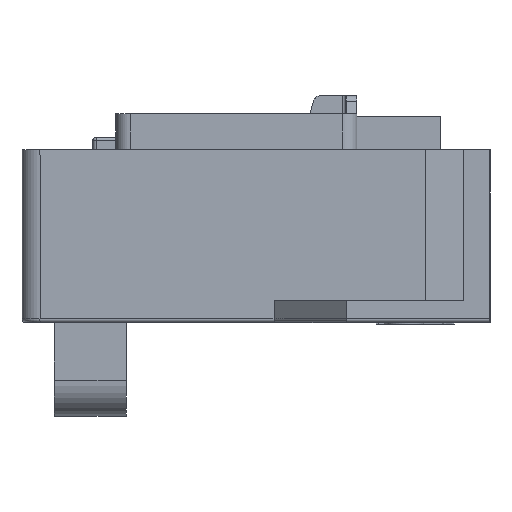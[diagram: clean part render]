
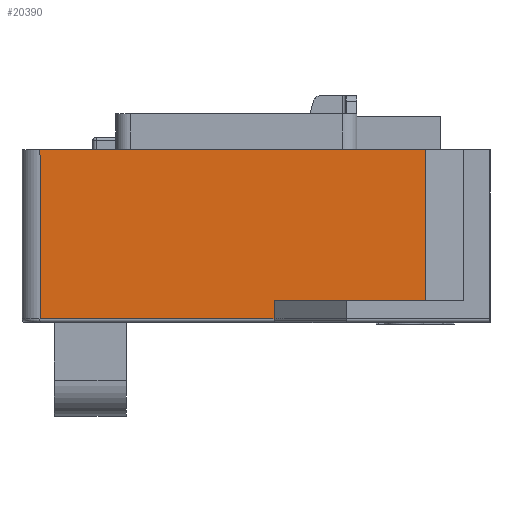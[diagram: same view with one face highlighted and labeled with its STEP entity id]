
A CAD part, left-side view. The second image highlights one B-rep face of the part: STEP entity #20390.
In plain terms, the highlighted planar face has unit normal (-1, 0, 0).
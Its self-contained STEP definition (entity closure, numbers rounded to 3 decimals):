
#11580=CARTESIAN_POINT('',(-36.777,-0.277,
4.084));
#11590=VERTEX_POINT('',#11580);
#11620=CARTESIAN_POINT('',(-36.777,0.,4.084));
#11630=DIRECTION('',(0.,-1.,0.));
#11640=VECTOR('',#11630,1.);
#11650=LINE('',#11620,#11640);
#11660=CARTESIAN_POINT('',(-36.777,-21.277,
4.084));
#11670=VERTEX_POINT('',#11660);
#11680=EDGE_CURVE('',#11590,#11670,#11650,.T.);
#12520=CARTESIAN_POINT('',(-36.777,-21.277,
25.084));
#12530=VERTEX_POINT('',#12520);
#12630=CARTESIAN_POINT('',(-36.777,-21.277,0.));
#12640=DIRECTION('',(0.,0.,1.));
#12650=VECTOR('',#12640,1.);
#12660=LINE('',#12630,#12650);
#12670=EDGE_CURVE('',#11670,#12530,#12660,.T.);
#19790=CARTESIAN_POINT('',(-36.777,32.223,
25.084));
#19800=VERTEX_POINT('',#19790);
#19830=CARTESIAN_POINT('',(-36.777,32.223,
25.174));
#19840=DIRECTION('',(0.,0.,-1.));
#19850=VECTOR('',#19840,1.);
#19860=LINE('',#19830,#19850);
#19870=CARTESIAN_POINT('',(-36.777,32.223,
1.584));
#19880=VERTEX_POINT('',#19870);
#19890=EDGE_CURVE('',#19800,#19880,#19860,.T.);
#20090=CARTESIAN_POINT('',(-36.777,-26.627,
27.434));
#20100=DIRECTION('',(1.,0.,0.));
#20110=DIRECTION('',(0.,-1.,0.));
#20120=AXIS2_PLACEMENT_3D('',#20090,#20100,#20110);
#20130=PLANE('',#20120);
#20140=CARTESIAN_POINT('',(-36.777,-0.277,0.));
#20150=DIRECTION('',(0.,0.,-1.));
#20160=VECTOR('',#20150,1.);
#20170=LINE('',#20140,#20160);
#20180=CARTESIAN_POINT('',(-36.777,-0.277,
1.584));
#20190=VERTEX_POINT('',#20180);
#20200=EDGE_CURVE('',#11590,#20190,#20170,.T.);
#20210=ORIENTED_EDGE('',*,*,#20200,.F.);
#20220=CARTESIAN_POINT('',(-36.777,32.403,
1.584));
#20230=DIRECTION('',(0.,-1.,0.));
#20240=VECTOR('',#20230,1.);
#20250=LINE('',#20220,#20240);
#20260=EDGE_CURVE('',#19880,#20190,#20250,.T.);
#20270=ORIENTED_EDGE('',*,*,#20260,.T.);
#20280=ORIENTED_EDGE('',*,*,#19890,.T.);
#20290=CARTESIAN_POINT('',(-36.777,0.,25.084));
#20300=DIRECTION('',(0.,1.,0.));
#20310=VECTOR('',#20300,1.);
#20320=LINE('',#20290,#20310);
#20330=EDGE_CURVE('',#12530,#19800,#20320,.T.);
#20340=ORIENTED_EDGE('',*,*,#20330,.T.);
#20350=ORIENTED_EDGE('',*,*,#12670,.T.);
#20360=ORIENTED_EDGE('',*,*,#11680,.T.);
#20370=EDGE_LOOP('',(#20360,#20350,#20340,#20280,#20270,#20210));
#20380=FACE_OUTER_BOUND('',#20370,.T.);
#20390=ADVANCED_FACE('',(#20380),#20130,.F.);
